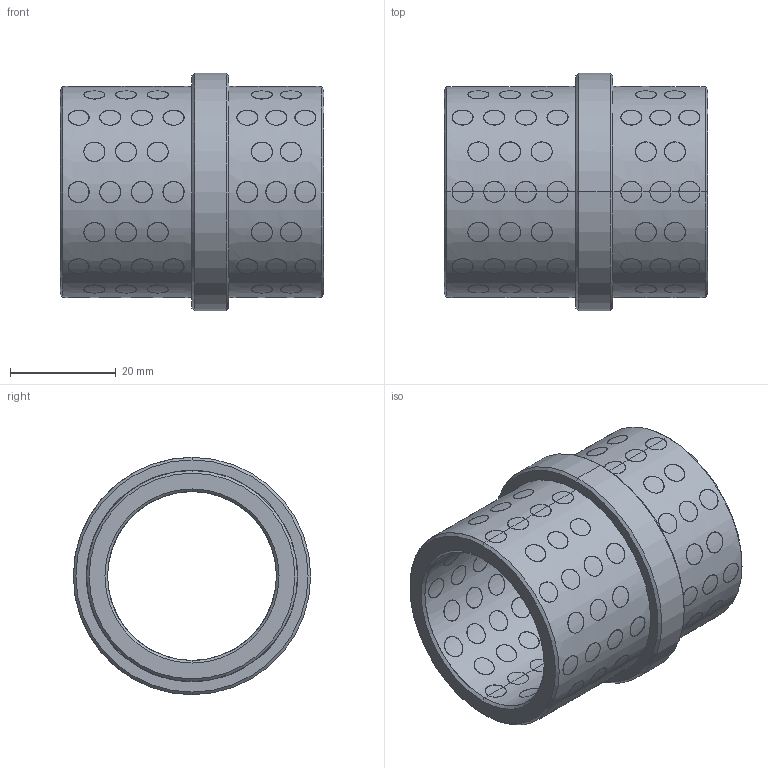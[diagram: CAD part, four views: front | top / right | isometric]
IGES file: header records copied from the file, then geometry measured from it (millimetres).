
Start section: START RECORD GO HERE.
Global section: file name: G4033250.igs; native system: DASSAULT SYSTEMES CATIA V5 R20 - www.3ds.com; preprocessor: CATIA Version 5 Release 20 ; author: r.borello; organization: CFTORINO; date: 20190624.144547; units: millimetre
Bounding box: 50 x 45 x 45 mm (x, y, z)
Surface area: 22336.6 mm2 (no closed solid volume)
Topology: 0 solids, 0 shells, 628 faces, 2736 edges, 2736 vertices
Faces by surface type: revolution 624, plane 4
